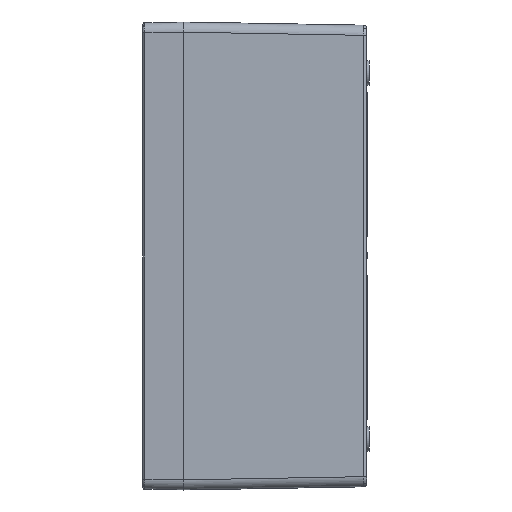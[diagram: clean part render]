
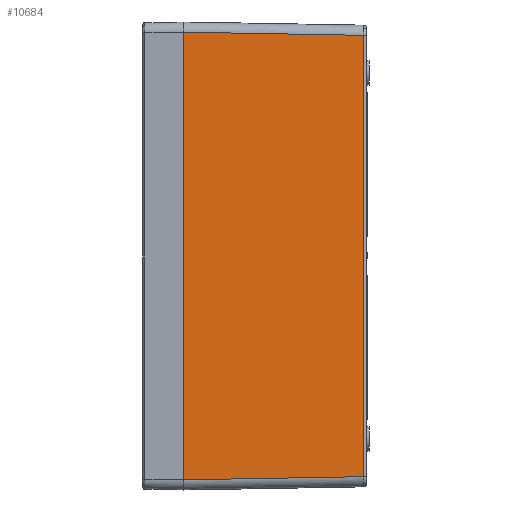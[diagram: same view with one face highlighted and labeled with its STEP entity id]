
A CAD part, left-side view. The second image highlights one B-rep face of the part: STEP entity #10684.
In plain terms, the highlighted planar face has unit normal (-1, -0.018, 0).
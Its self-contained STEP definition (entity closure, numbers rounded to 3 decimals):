
#392 = VECTOR ( 'NONE', #23919, 1000. ) ;
#1167 = CARTESIAN_POINT ( 'NONE',  ( -165., 0., 115. ) ) ;
#1381 = ORIENTED_EDGE ( 'NONE', *, *, #2177, .T. ) ;
#1800 = AXIS2_PLACEMENT_3D ( 'NONE', #12953, #3967, #19781 ) ;
#2177 = EDGE_CURVE ( 'NONE', #16775, #22149, #10972, .T. ) ;
#2678 = CARTESIAN_POINT ( 'NONE',  ( -163.455, -88.526, -108.456 ) ) ;
#2733 = VERTEX_POINT ( 'NONE', #8158 ) ;
#3102 = CARTESIAN_POINT ( 'NONE',  ( -163.455, -88.526, 108.456 ) ) ;
#3967 = DIRECTION ( 'NONE',  ( -1., -0.017, 0. ) ) ;
#5168 = ORIENTED_EDGE ( 'NONE', *, *, #15593, .T. ) ;
#5759 = DIRECTION ( 'NONE',  ( 0., 0., 1. ) ) ;
#8038 = VERTEX_POINT ( 'NONE', #21659 ) ;
#8158 = CARTESIAN_POINT ( 'NONE',  ( -165., 0., 110.001 ) ) ;
#9166 = FACE_OUTER_BOUND ( 'NONE', #28176, .T. ) ;
#10407 = CARTESIAN_POINT ( 'NONE',  ( -165.002, 0.087, 110.002 ) ) ;
#10684 = ADVANCED_FACE ( 'NONE', ( #9166 ), #28755, .T. ) ;
#10821 = LINE ( 'NONE', #1167, #27394 ) ;
#10972 = LINE ( 'NONE', #16774, #28251 ) ;
#12953 = CARTESIAN_POINT ( 'NONE',  ( -165., 0., 115. ) ) ;
#15455 = EDGE_CURVE ( 'NONE', #8038, #2733, #10821, .T. ) ;
#15593 = EDGE_CURVE ( 'NONE', #8038, #16775, #25277, .T. ) ;
#16774 = CARTESIAN_POINT ( 'NONE',  ( -163.455, -88.526, 115. ) ) ;
#16775 = VERTEX_POINT ( 'NONE', #2678 ) ;
#17563 = CARTESIAN_POINT ( 'NONE',  ( -164.931, -3.925, -109.932 ) ) ;
#18568 = ORIENTED_EDGE ( 'NONE', *, *, #27184, .T. ) ;
#19781 = DIRECTION ( 'NONE',  ( 0.017, -1., 0. ) ) ;
#19838 = DIRECTION ( 'NONE',  ( 0.017, -1., 0.017 ) ) ;
#20485 = ORIENTED_EDGE ( 'NONE', *, *, #15455, .F. ) ;
#21317 = DIRECTION ( 'NONE',  ( 0., 0., 1. ) ) ;
#21659 = CARTESIAN_POINT ( 'NONE',  ( -165., 0., -110.001 ) ) ;
#22149 = VERTEX_POINT ( 'NONE', #3102 ) ;
#23722 = LINE ( 'NONE', #10407, #392 ) ;
#23919 = DIRECTION ( 'NONE',  ( -0.017, 1., 0.017 ) ) ;
#24565 = VECTOR ( 'NONE', #19838, 1000. ) ;
#25277 = LINE ( 'NONE', #17563, #24565 ) ;
#27184 = EDGE_CURVE ( 'NONE', #22149, #2733, #23722, .T. ) ;
#27394 = VECTOR ( 'NONE', #5759, 1000. ) ;
#28176 = EDGE_LOOP ( 'NONE', ( #5168, #1381, #18568, #20485 ) ) ;
#28251 = VECTOR ( 'NONE', #21317, 1000. ) ;
#28755 = PLANE ( 'NONE',  #1800 ) ;
